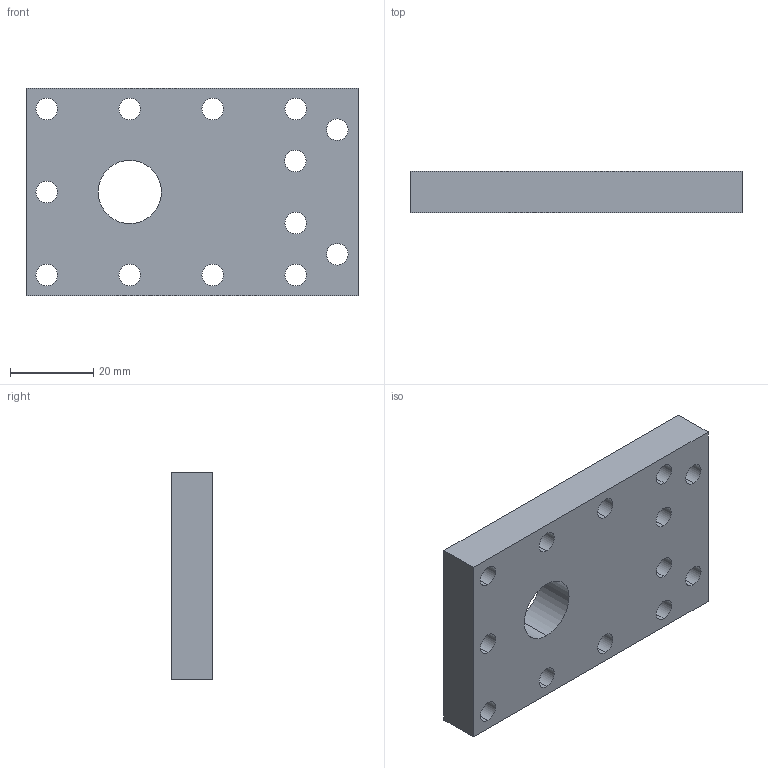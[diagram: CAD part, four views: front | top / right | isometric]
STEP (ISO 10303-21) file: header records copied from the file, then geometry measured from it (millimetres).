
FILE_DESCRIPTION (( 'STEP AP214' ), '1' );
FILE_NAME ('CESV-T.STEP', '2019-05-17T11:39:20', ( '' ), ( '' ), 'SwSTEP 2.0', 'SolidWorks 2018', '' );
FILE_SCHEMA (( 'AUTOMOTIVE_DESIGN' ));
Length unit declared in the file: millimetre
Products named in the file (1): CESV-T
Bounding box: 80 x 10 x 50 mm (x, y, z)
Volume: 35412.6 mm3; surface area: 12285.3 mm2
Topology: 1 solids, 1 shells, 34 faces, 96 edges, 64 vertices
Faces by surface type: cylinder 28, plane 6
Entity records: 1600 total; most frequent: DIRECTION 222, CARTESIAN_POINT 195, ORIENTED_EDGE 192, EDGE_CURVE 96, AXIS2_PLACEMENT_3D 91, VERTEX_POINT 64, EDGE_LOOP 62, CIRCLE 56
